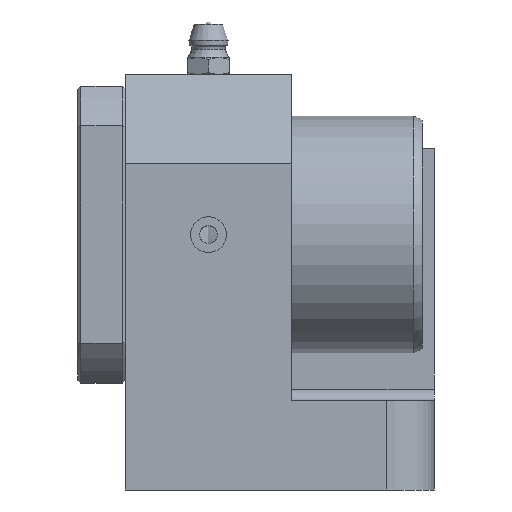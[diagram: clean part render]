
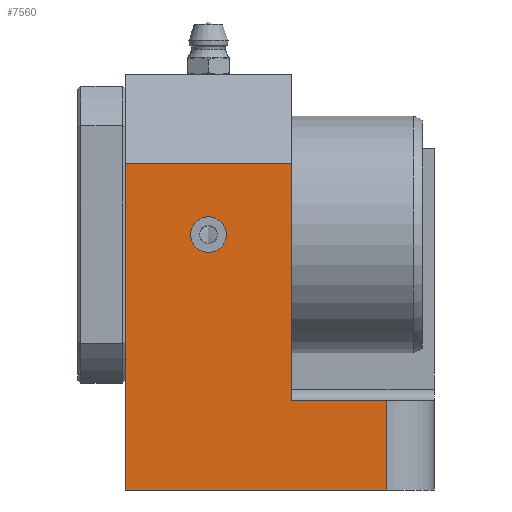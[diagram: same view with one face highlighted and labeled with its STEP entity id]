
A CAD part, front view. The second image highlights one B-rep face of the part: STEP entity #7560.
In plain terms, the highlighted planar face has unit normal (0, -1, 0).
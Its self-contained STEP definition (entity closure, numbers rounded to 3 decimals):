
#7427=CARTESIAN_POINT('',(44.,-75.0,15.0));
#7428=VERTEX_POINT('',#7427);
#7436=CARTESIAN_POINT('',(44.,-75.0,0.0));
#7437=VERTEX_POINT('',#7436);
#7438=CARTESIAN_POINT('',(44.,-75.0,15.0));
#7439=DIRECTION('',(0.0,0.0,-1.0));
#7440=VECTOR('',#7439,15.0);
#7441=LINE('',#7438,#7440);
#7442=EDGE_CURVE('',#7428,#7437,#7441,.T.);
#7463=CARTESIAN_POINT('',(0.0,-75.0,0.0));
#7464=VERTEX_POINT('',#7463);
#7465=CARTESIAN_POINT('',(0.0,-75.0,0.0));
#7466=DIRECTION('',(1.0,0.0,0.0));
#7467=VECTOR('',#7466,44.);
#7468=LINE('',#7465,#7467);
#7469=EDGE_CURVE('',#7464,#7437,#7468,.T.);
#7510=CARTESIAN_POINT('',(52.,-75.0,0.0));
#7511=DIRECTION('',(0.0,-1.0,0.0));
#7512=DIRECTION('',(0.0,0.0,-1.0));
#7513=AXIS2_PLACEMENT_3D('',#7510,#7511,#7512);
#7514=PLANE('',#7513);
#7515=ORIENTED_EDGE('',*,*,#7442,.F.);
#7516=CARTESIAN_POINT('',(28.,-75.0,15.0));
#7517=VERTEX_POINT('',#7516);
#7518=CARTESIAN_POINT('',(44.,-75.0,15.0));
#7519=DIRECTION('',(-1.0,0.0,0.0));
#7520=VECTOR('',#7519,16.);
#7521=LINE('',#7518,#7520);
#7522=EDGE_CURVE('',#7428,#7517,#7521,.T.);
#7523=ORIENTED_EDGE('',*,*,#7522,.T.);
#7524=CARTESIAN_POINT('',(28.,-75.0,55.0));
#7525=VERTEX_POINT('',#7524);
#7526=CARTESIAN_POINT('',(28.,-75.0,15.0));
#7527=DIRECTION('',(0.0,0.0,1.0));
#7528=VECTOR('',#7527,40.0);
#7529=LINE('',#7526,#7528);
#7530=EDGE_CURVE('',#7517,#7525,#7529,.T.);
#7531=ORIENTED_EDGE('',*,*,#7530,.T.);
#7532=CARTESIAN_POINT('',(0.0,-75.0,55.0));
#7533=VERTEX_POINT('',#7532);
#7534=CARTESIAN_POINT('',(0.0,-75.0,55.0));
#7535=DIRECTION('',(1.0,0.0,0.0));
#7536=VECTOR('',#7535,28.);
#7537=LINE('',#7534,#7536);
#7538=EDGE_CURVE('',#7533,#7525,#7537,.T.);
#7539=ORIENTED_EDGE('',*,*,#7538,.F.);
#7540=CARTESIAN_POINT('',(0.0,-75.0,0.0));
#7541=DIRECTION('',(0.0,0.0,1.0));
#7542=VECTOR('',#7541,55.0);
#7543=LINE('',#7540,#7542);
#7544=EDGE_CURVE('',#7464,#7533,#7543,.T.);
#7545=ORIENTED_EDGE('',*,*,#7544,.F.);
#7546=ORIENTED_EDGE('',*,*,#7469,.T.);
#7547=EDGE_LOOP('',(#7515,#7523,#7531,#7539,#7545,#7546));
#7548=FACE_OUTER_BOUND('',#7547,.T.);
#7549=CARTESIAN_POINT('',(17.,-75.0,43.0));
#7550=VERTEX_POINT('',#7549);
#7551=CARTESIAN_POINT('',(14.,-75.0,43.0));
#7552=DIRECTION('',(0.0,1.0,0.0));
#7553=DIRECTION('',(1.0,0.0,0.0));
#7554=AXIS2_PLACEMENT_3D('',#7551,#7552,#7553);
#7555=CIRCLE('',#7554,3.);
#7556=EDGE_CURVE('',#7550,#7550,#7555,.T.);
#7557=ORIENTED_EDGE('',*,*,#7556,.T.);
#7558=EDGE_LOOP('',(#7557));
#7559=FACE_BOUND('',#7558,.T.);
#7560=ADVANCED_FACE('',(#7548,#7559),#7514,.T.);
